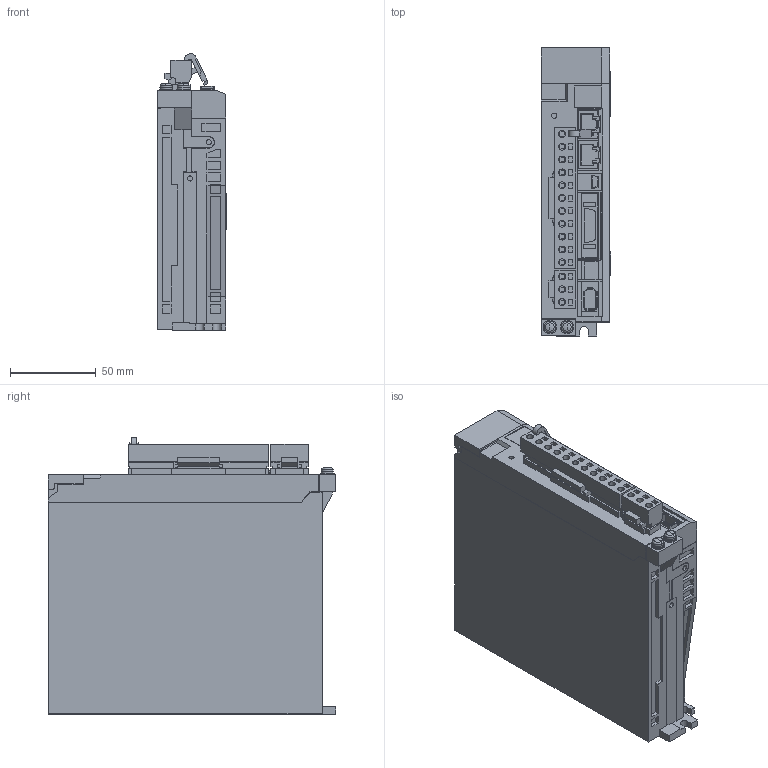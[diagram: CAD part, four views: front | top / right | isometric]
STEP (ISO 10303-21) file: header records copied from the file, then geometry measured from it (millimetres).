
FILE_DESCRIPTION((''),'2;1');
FILE_NAME('SGDXS-1R6A40A_ASM','2022-02-24T',('qiaochen_shen'),('Yaskawa Electric (Shenyang) Co.,Ltd'),'PRO/ENGINEER BY PARAMETRIC TECHNOLOGY CORPORATION, 2017170','PRO/ENGINEER BY PARAMETRIC TECHNOLOGY CORPORATION, 2017170','');
FILE_SCHEMA(('AUTOMOTIVE_DESIGN { 1 0 10303 214 1 1 1 1 }'));
Products named in the file (9): SGDXS_1R6A40A_BASE1; SGDXS_1R6A40A_COVER_1; SGDXS_1R6A40A_CONNECTOR_2; SGDXS_1R6A40A_CONNECTOR_1; SGDXS_1R6A40A_CONNECTOR_3; SGDXS_1R6A40A_PIN_1; SGDXS_1R6A40A_COVER2; SGDXS_1R6A40A_COVER3_AF0; SGDXS-1R6A40A_ASM
Assembly tree (8 placements, depth 2):
  SGDXS-1R6A40A_ASM
    SGDXS_1R6A40A_BASE1
    SGDXS_1R6A40A_COVER_1
    SGDXS_1R6A40A_CONNECTOR_2
    SGDXS_1R6A40A_CONNECTOR_1
    SGDXS_1R6A40A_CONNECTOR_3
    SGDXS_1R6A40A_PIN_1
    SGDXS_1R6A40A_COVER2
    SGDXS_1R6A40A_COVER3_AF0
Bounding box: 40.5 x 168 x 161.79 mm (x, y, z)
Volume: 831270.4 mm3; surface area: 123724.7 mm2
Topology: 8 solids, 8 shells, 1809 faces, 4876 edges, 3206 vertices
Faces by surface type: plane 1690, cylinder 107, cone 4, torus 4, sphere 4
Entity records: 71720 total; most frequent: CARTESIAN_POINT 9929, ORIENTED_EDGE 9744, DIRECTION 8764, EDGE_CURVE 4872, VECTOR 4632, LINE 4632, VERTEX_POINT 3206, PRESENTATION_STYLE_ASSIGNMENT 2192
